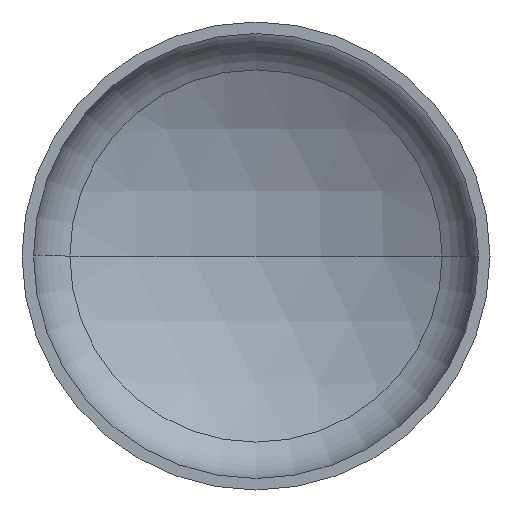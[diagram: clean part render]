
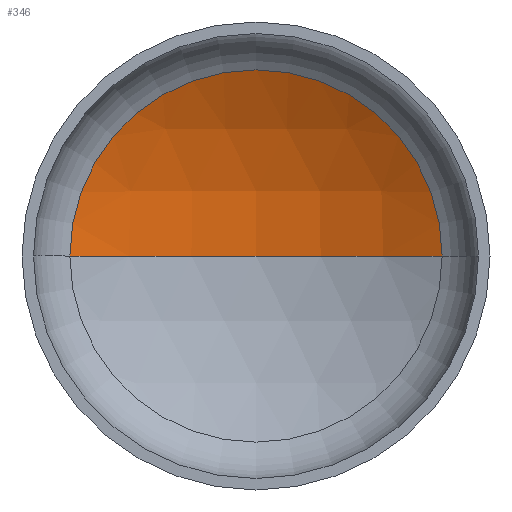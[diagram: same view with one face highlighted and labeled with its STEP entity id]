
A CAD part, front view. The second image highlights one B-rep face of the part: STEP entity #346.
In plain terms, the highlighted spherical face has radius 1760 mm.
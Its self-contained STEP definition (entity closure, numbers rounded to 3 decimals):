
#6 = VERTEX_POINT ( 'NONE', #335 ) ;
#9 = AXIS2_PLACEMENT_3D ( 'NONE', #165, #374, #158 ) ;
#12 = CIRCLE ( 'NONE', #20, 875.042 ) ;
#18 = AXIS2_PLACEMENT_3D ( 'NONE', #162, #348, #194 ) ;
#20 = AXIS2_PLACEMENT_3D ( 'NONE', #224, #233, #401 ) ;
#28 = DIRECTION ( 'NONE',  ( 0., 0., 1. ) ) ;
#41 = ORIENTED_EDGE ( 'NONE', *, *, #328, .T. ) ;
#67 = ORIENTED_EDGE ( 'NONE', *, *, #383, .F. ) ;
#95 = AXIS2_PLACEMENT_3D ( 'NONE', #258, #28, #282 ) ;
#158 = DIRECTION ( 'NONE',  ( -1., 0., 0. ) ) ;
#160 = CARTESIAN_POINT ( 'NONE',  ( -875.042, 415., 0. ) ) ;
#162 = CARTESIAN_POINT ( 'NONE',  ( 0., -1112.057, 0. ) ) ;
#165 = CARTESIAN_POINT ( 'NONE',  ( 0., -1112.057, 0. ) ) ;
#168 = EDGE_LOOP ( 'NONE', ( #67, #227, #41 ) ) ;
#177 = VERTEX_POINT ( 'NONE', #160 ) ;
#191 = VERTEX_POINT ( 'NONE', #373 ) ;
#194 = DIRECTION ( 'NONE',  ( -1., 0., 0. ) ) ;
#213 = SPHERICAL_SURFACE ( 'NONE', #9, 1760. ) ;
#224 = CARTESIAN_POINT ( 'NONE',  ( 0., 415., 0. ) ) ;
#227 = ORIENTED_EDGE ( 'NONE', *, *, #331, .T. ) ;
#233 = DIRECTION ( 'NONE',  ( 0., -1., 0. ) ) ;
#258 = CARTESIAN_POINT ( 'NONE',  ( 0., -1112.057, 0. ) ) ;
#282 = DIRECTION ( 'NONE',  ( 1., 0., 0. ) ) ;
#284 = FACE_OUTER_BOUND ( 'NONE', #168, .T. ) ;
#290 = CIRCLE ( 'NONE', #18, 1760. ) ;
#328 = EDGE_CURVE ( 'NONE', #191, #177, #12, .T. ) ;
#331 = EDGE_CURVE ( 'NONE', #6, #191, #290, .T. ) ;
#335 = CARTESIAN_POINT ( 'NONE',  ( 0., 647.943, 0. ) ) ;
#346 = ADVANCED_FACE ( 'NONE', ( #284 ), #213, .F. ) ;
#348 = DIRECTION ( 'NONE',  ( 0., 0., -1. ) ) ;
#373 = CARTESIAN_POINT ( 'NONE',  ( 875.042, 415., 0. ) ) ;
#374 = DIRECTION ( 'NONE',  ( 0., 0., -1. ) ) ;
#383 = EDGE_CURVE ( 'NONE', #6, #177, #398, .T. ) ;
#398 = CIRCLE ( 'NONE', #95, 1760. ) ;
#401 = DIRECTION ( 'NONE',  ( 1., 0., 0. ) ) ;
